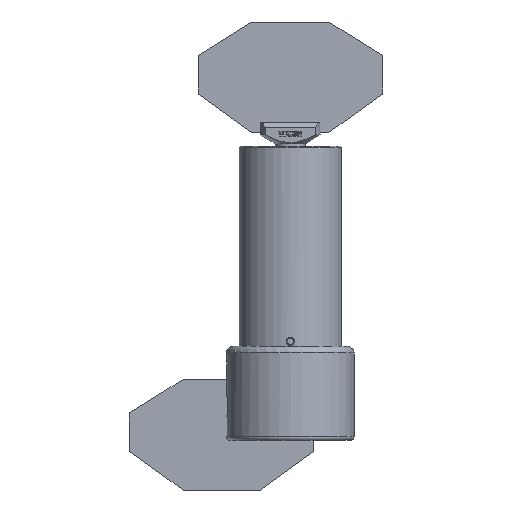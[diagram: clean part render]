
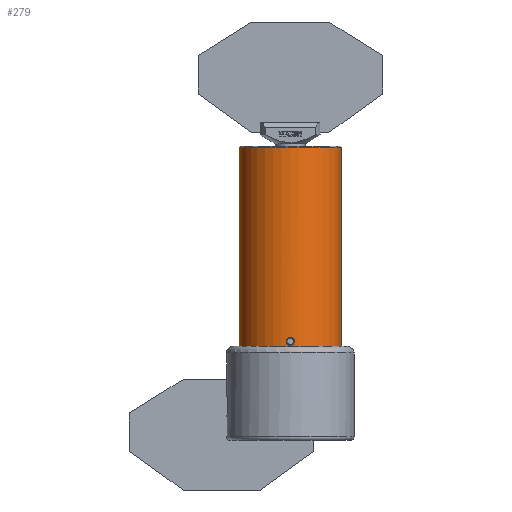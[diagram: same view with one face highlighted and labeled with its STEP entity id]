
A CAD part, front view. The second image highlights one B-rep face of the part: STEP entity #279.
In plain terms, the highlighted cylindrical face has radius 15.24 mm (diameter 30.48 mm), a full revolution.
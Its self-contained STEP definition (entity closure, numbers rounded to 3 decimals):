
#279 = ADVANCED_FACE( '', ( #782, #783, #784, #785 ), #786, .T. );
#782 = FACE_OUTER_BOUND( '', #1908, .T. );
#783 = FACE_BOUND( '', #1909, .T. );
#784 = FACE_BOUND( '', #1910, .T. );
#785 = FACE_OUTER_BOUND( '', #1911, .T. );
#786 = CYLINDRICAL_SURFACE( '', #1912, 15.24 );
#1908 = EDGE_LOOP( '', ( #3500 ) );
#1909 = EDGE_LOOP( '', ( #3501 ) );
#1910 = EDGE_LOOP( '', ( #3502 ) );
#1911 = EDGE_LOOP( '', ( #3503 ) );
#1912 = AXIS2_PLACEMENT_3D( '', #3504, #3505, #3506 );
#3500 = ORIENTED_EDGE( '', *, *, #5764, .T. );
#3501 = ORIENTED_EDGE( '', *, *, #5749, .T. );
#3502 = ORIENTED_EDGE( '', *, *, #5762, .T. );
#3503 = ORIENTED_EDGE( '', *, *, #5765, .T. );
#3504 = CARTESIAN_POINT( '', ( 20.469, -16.722, 136.608 ) );
#3505 = DIRECTION( '', ( 0., 0., 1. ) );
#3506 = DIRECTION( '', ( 1., 0., 0. ) );
#5749 = EDGE_CURVE( '', #6820, #6820, #6821, .F. );
#5762 = EDGE_CURVE( '', #6846, #6846, #6847, .F. );
#5764 = EDGE_CURVE( '', #6850, #6850, #6851, .F. );
#5765 = EDGE_CURVE( '', #6852, #6852, #6853, .T. );
#6820 = VERTEX_POINT( '', #8681 );
#6821 = B_SPLINE_CURVE_WITH_KNOTS( '', 3, ( #8682, #8683, #8684, #8685, #8686, #8687, #8688, #8689, #8690, #8691, #8692, #8693, #8694, #8695, #8696, #8697, #8698, #8699, #8700, #8701, #8702, #8703, #8704, #8705, #8706, #8707, #8708, #8709, #8710, #8711, #8712, #8713 ), .UNSPECIFIED., .T., .F., ( 2, 2, 2, 2, 2, 2, 2, 2, 2, 2, 2, 2, 2, 2, 2, 2, 2, 2 ), ( 0., 0., 0., 0.001, 0.001, 0.002, 0.002, 0.003, 0.003, 0.004, 0.005, 0.005, 0.006, 0.006, 0.007, 0.007, 0.008, 0.008 ), .UNSPECIFIED. );
#6846 = VERTEX_POINT( '', #8866 );
#6847 = B_SPLINE_CURVE_WITH_KNOTS( '', 3, ( #8867, #8868, #8869, #8870, #8871, #8872, #8873, #8874, #8875, #8876, #8877, #8878, #8879, #8880, #8881, #8882, #8883, #8884, #8885, #8886, #8887, #8888, #8889, #8890, #8891, #8892, #8893, #8894, #8895, #8896, #8897, #8898 ), .UNSPECIFIED., .T., .F., ( 2, 2, 2, 2, 2, 2, 2, 2, 2, 2, 2, 2, 2, 2, 2, 2, 2, 2 ), ( 0., 0., 0., 0.001, 0.001, 0.002, 0.002, 0.003, 0.003, 0.004, 0.005, 0.005, 0.006, 0.006, 0.007, 0.007, 0.008, 0.008 ), .UNSPECIFIED. );
#6850 = VERTEX_POINT( '', #8934 );
#6851 = CIRCLE( '', #8935, 15.24 );
#6852 = VERTEX_POINT( '', #8936 );
#6853 = CIRCLE( '', #8937, 15.24 );
#8681 = CARTESIAN_POINT( '', ( 20.469, -31.962, 26.628 ) );
#8682 = CARTESIAN_POINT( '', ( 20.31, -31.962, 26.628 ) );
#8683 = CARTESIAN_POINT( '', ( 20.629, -31.962, 26.628 ) );
#8684 = CARTESIAN_POINT( '', ( 20.785, -31.959, 26.66 ) );
#8685 = CARTESIAN_POINT( '', ( 21.005, -31.953, 26.75 ) );
#8686 = CARTESIAN_POINT( '', ( 21.075, -31.95, 26.786 ) );
#8687 = CARTESIAN_POINT( '', ( 21.207, -31.944, 26.872 ) );
#8688 = CARTESIAN_POINT( '', ( 21.27, -31.941, 26.922 ) );
#8689 = CARTESIAN_POINT( '', ( 21.551, -31.925, 27.197 ) );
#8690 = CARTESIAN_POINT( '', ( 21.685, -31.913, 27.512 ) );
#8691 = CARTESIAN_POINT( '', ( 21.685, -31.913, 27.984 ) );
#8692 = CARTESIAN_POINT( '', ( 21.652, -31.916, 28.142 ) );
#8693 = CARTESIAN_POINT( '', ( 21.53, -31.925, 28.434 ) );
#8694 = CARTESIAN_POINT( '', ( 21.441, -31.931, 28.567 ) );
#8695 = CARTESIAN_POINT( '', ( 21.213, -31.944, 28.79 ) );
#8696 = CARTESIAN_POINT( '', ( 21.079, -31.95, 28.877 ) );
#8697 = CARTESIAN_POINT( '', ( 20.786, -31.959, 28.996 ) );
#8698 = CARTESIAN_POINT( '', ( 20.629, -31.962, 29.028 ) );
#8699 = CARTESIAN_POINT( '', ( 20.15, -31.962, 29.028 ) );
#8700 = CARTESIAN_POINT( '', ( 19.838, -31.95, 28.901 ) );
#8701 = CARTESIAN_POINT( '', ( 19.499, -31.931, 28.568 ) );
#8702 = CARTESIAN_POINT( '', ( 19.409, -31.925, 28.435 ) );
#8703 = CARTESIAN_POINT( '', ( 19.287, -31.916, 28.144 ) );
#8704 = CARTESIAN_POINT( '', ( 19.253, -31.913, 27.986 ) );
#8705 = CARTESIAN_POINT( '', ( 19.253, -31.913, 27.671 ) );
#8706 = CARTESIAN_POINT( '', ( 19.287, -31.916, 27.513 ) );
#8707 = CARTESIAN_POINT( '', ( 19.409, -31.925, 27.222 ) );
#8708 = CARTESIAN_POINT( '', ( 19.499, -31.931, 27.088 ) );
#8709 = CARTESIAN_POINT( '', ( 19.725, -31.944, 26.867 ) );
#8710 = CARTESIAN_POINT( '', ( 19.859, -31.95, 26.78 ) );
#8711 = CARTESIAN_POINT( '', ( 20.154, -31.959, 26.659 ) );
#8712 = CARTESIAN_POINT( '', ( 20.31, -31.962, 26.628 ) );
#8713 = CARTESIAN_POINT( '', ( 20.629, -31.962, 26.628 ) );
#8866 = CARTESIAN_POINT( '', ( 20.469, -1.482, 26.628 ) );
#8867 = CARTESIAN_POINT( '', ( 20.629, -1.482, 26.628 ) );
#8868 = CARTESIAN_POINT( '', ( 20.31, -1.482, 26.628 ) );
#8869 = CARTESIAN_POINT( '', ( 20.154, -1.484, 26.66 ) );
#8870 = CARTESIAN_POINT( '', ( 19.934, -1.491, 26.75 ) );
#8871 = CARTESIAN_POINT( '', ( 19.864, -1.494, 26.786 ) );
#8872 = CARTESIAN_POINT( '', ( 19.732, -1.5, 26.872 ) );
#8873 = CARTESIAN_POINT( '', ( 19.669, -1.503, 26.922 ) );
#8874 = CARTESIAN_POINT( '', ( 19.387, -1.519, 27.197 ) );
#8875 = CARTESIAN_POINT( '', ( 19.254, -1.53, 27.512 ) );
#8876 = CARTESIAN_POINT( '', ( 19.253, -1.53, 27.984 ) );
#8877 = CARTESIAN_POINT( '', ( 19.286, -1.528, 28.142 ) );
#8878 = CARTESIAN_POINT( '', ( 19.409, -1.519, 28.434 ) );
#8879 = CARTESIAN_POINT( '', ( 19.498, -1.512, 28.567 ) );
#8880 = CARTESIAN_POINT( '', ( 19.725, -1.5, 28.79 ) );
#8881 = CARTESIAN_POINT( '', ( 19.859, -1.493, 28.877 ) );
#8882 = CARTESIAN_POINT( '', ( 20.153, -1.484, 28.996 ) );
#8883 = CARTESIAN_POINT( '', ( 20.31, -1.482, 29.028 ) );
#8884 = CARTESIAN_POINT( '', ( 20.788, -1.482, 29.028 ) );
#8885 = CARTESIAN_POINT( '', ( 21.101, -1.493, 28.901 ) );
#8886 = CARTESIAN_POINT( '', ( 21.44, -1.512, 28.568 ) );
#8887 = CARTESIAN_POINT( '', ( 21.529, -1.519, 28.435 ) );
#8888 = CARTESIAN_POINT( '', ( 21.652, -1.528, 28.144 ) );
#8889 = CARTESIAN_POINT( '', ( 21.685, -1.53, 27.986 ) );
#8890 = CARTESIAN_POINT( '', ( 21.685, -1.53, 27.671 ) );
#8891 = CARTESIAN_POINT( '', ( 21.652, -1.528, 27.513 ) );
#8892 = CARTESIAN_POINT( '', ( 21.529, -1.519, 27.222 ) );
#8893 = CARTESIAN_POINT( '', ( 21.44, -1.512, 27.088 ) );
#8894 = CARTESIAN_POINT( '', ( 21.214, -1.5, 26.867 ) );
#8895 = CARTESIAN_POINT( '', ( 21.08, -1.493, 26.78 ) );
#8896 = CARTESIAN_POINT( '', ( 20.785, -1.484, 26.659 ) );
#8897 = CARTESIAN_POINT( '', ( 20.629, -1.482, 26.628 ) );
#8898 = CARTESIAN_POINT( '', ( 20.31, -1.482, 26.628 ) );
#8934 = CARTESIAN_POINT( '', ( 5.229, -16.722, 26.328 ) );
#8935 = AXIS2_PLACEMENT_3D( '', #11156, #11157, #11158 );
#8936 = CARTESIAN_POINT( '', ( 35.709, -16.722, 85.708 ) );
#8937 = AXIS2_PLACEMENT_3D( '', #11159, #11160, #11161 );
#11156 = CARTESIAN_POINT( '', ( 20.469, -16.722, 26.328 ) );
#11157 = DIRECTION( '', ( 0., 0., -1. ) );
#11158 = DIRECTION( '', ( -1., 0., 0. ) );
#11159 = CARTESIAN_POINT( '', ( 20.469, -16.722, 85.708 ) );
#11160 = DIRECTION( '', ( 0., 0., -1. ) );
#11161 = DIRECTION( '', ( 1., 0., 0. ) );
